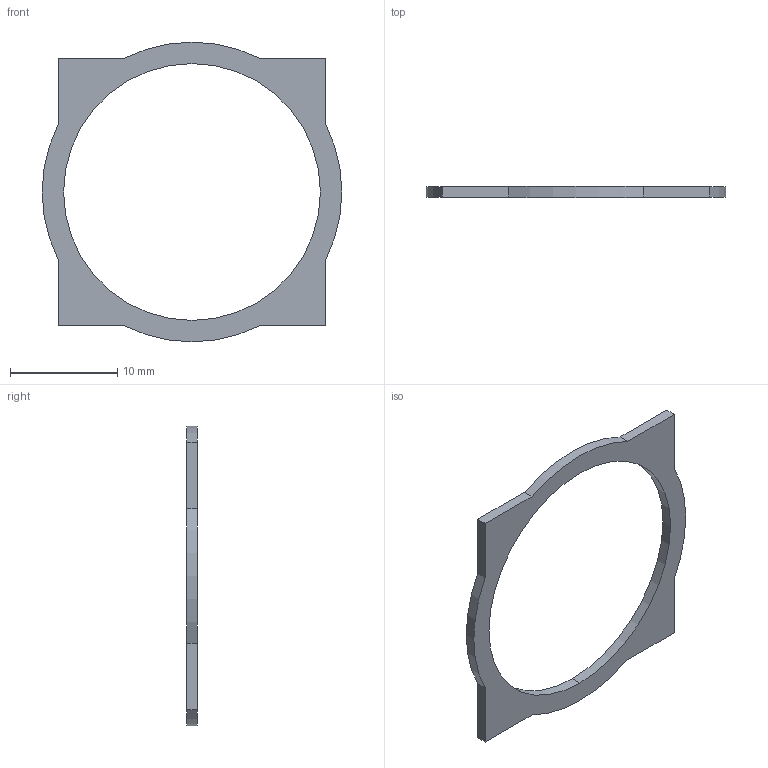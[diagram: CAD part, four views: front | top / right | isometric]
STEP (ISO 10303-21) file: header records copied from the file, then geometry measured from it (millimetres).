
FILE_DESCRIPTION (( 'STEP AP203' ), '1' );
FILE_NAME ('OPT_GRISM_0007 [2026-04-04].STEP', '2026-04-04T10:54:40', ( '' ), ( '' ), 'SwSTEP 2.0', 'SolidWorks 2014', '' );
FILE_SCHEMA (( 'CONFIG_CONTROL_DESIGN' ));
Length unit declared in the file: millimetre
Products named in the file (1): OPT_GRISM_0007 [2026-04-04]
Bounding box: 28 x 1 x 28 mm (x, y, z)
Volume: 223.6 mm3; surface area: 624.5 mm2
Topology: 1 solids, 1 shells, 17 faces, 45 edges, 30 vertices
Faces by surface type: plane 10, cylinder 7
Entity records: 614 total; most frequent: DIRECTION 95, CARTESIAN_POINT 93, ORIENTED_EDGE 90, EDGE_CURVE 45, AXIS2_PLACEMENT_3D 32, VECTOR 31, LINE 31, VERTEX_POINT 30
